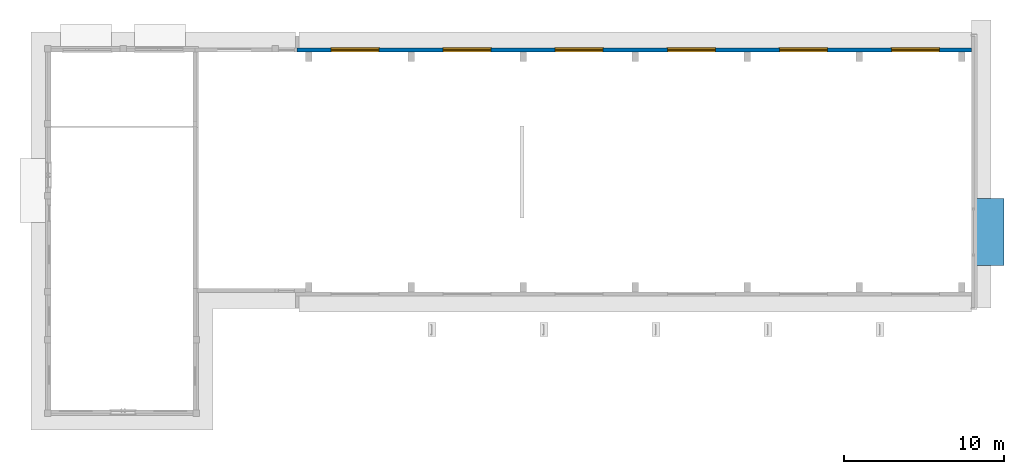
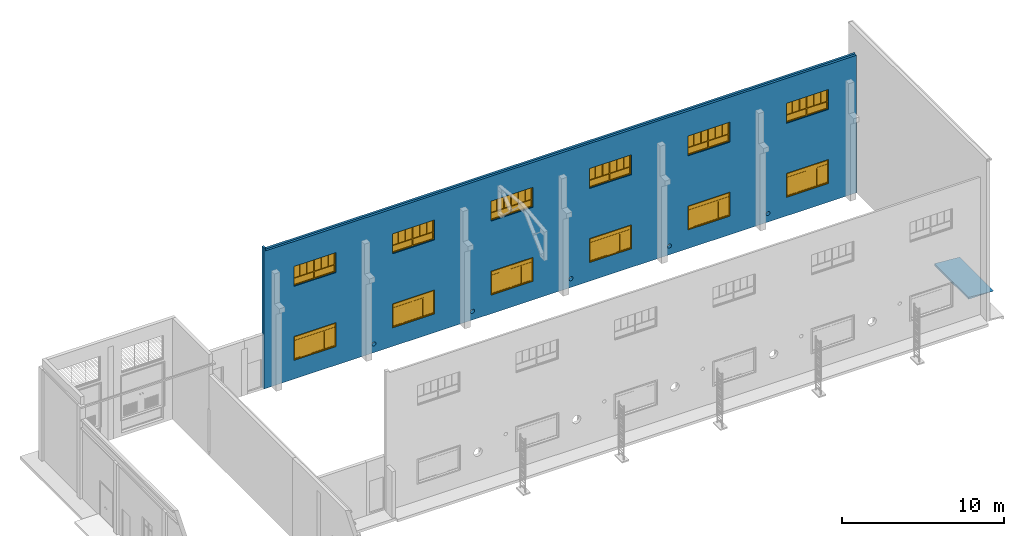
"""IFC2X3 building model written with IfcOpenShell, lengths in millimetres."""

from ifc_helpers import new_model, entity, si_unit, converted_unit, derived_unit, direction, frame, frame_2d, origin, origin_2d_with_axis, place, context, subcontext, project, spatial, polyline, rectangle, circle, outline, extrude, clip, bounded_halfspace, source, transform, mapped, material, material_list, layer, layer_set, layer_usage, type_object, type_shapes, element, fill, aggregate, save


model = new_model("IFC2X3")

# Units and contexts
model_context = context("Model", 3, precision=0.01, world=origin(), true_north=direction((6.12303176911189e-17, 1.0)))
body_context = subcontext(model_context, "Body", "Model", "MODEL_VIEW")
ifc_project = project(units=[si_unit("LENGTHUNIT", "METRE", prefix="MILLI"), si_unit("AREAUNIT", "SQUARE_METRE"), si_unit("VOLUMEUNIT", "CUBIC_METRE"), converted_unit("PLANEANGLEUNIT", "DEGREE", entity("IfcRatioMeasure", 0.0174532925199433), si_unit("PLANEANGLEUNIT", "RADIAN"), dimensions=[0, 0, 0, 0, 0, 0, 0]), si_unit("MASSUNIT", "GRAM", prefix="KILO"), derived_unit("MASSDENSITYUNIT", [(si_unit("MASSUNIT", "GRAM", prefix="KILO"), 1), (si_unit("LENGTHUNIT", "METRE"), -3)]), si_unit("TIMEUNIT", "SECOND"), si_unit("FREQUENCYUNIT", "HERTZ"), si_unit("THERMODYNAMICTEMPERATUREUNIT", "DEGREE_CELSIUS"), derived_unit("THERMALTRANSMITTANCEUNIT", [(si_unit("MASSUNIT", "GRAM", prefix="KILO"), 1), (si_unit("THERMODYNAMICTEMPERATUREUNIT", "KELVIN"), -1), (si_unit("TIMEUNIT", "SECOND"), -3)]), derived_unit("VOLUMETRICFLOWRATEUNIT", [(si_unit("LENGTHUNIT", "METRE"), 3), (si_unit("TIMEUNIT", "SECOND"), -1)]), si_unit("ELECTRICCURRENTUNIT", "AMPERE"), si_unit("ELECTRICVOLTAGEUNIT", "VOLT"), si_unit("POWERUNIT", "WATT"), si_unit("FORCEUNIT", "NEWTON", prefix="KILO"), si_unit("ILLUMINANCEUNIT", "LUX"), si_unit("LUMINOUSFLUXUNIT", "LUMEN"), si_unit("LUMINOUSINTENSITYUNIT", "CANDELA"), derived_unit("USERDEFINED", [(si_unit("MASSUNIT", "GRAM", prefix="KILO"), -1), (si_unit("LENGTHUNIT", "METRE"), -2), (si_unit("TIMEUNIT", "SECOND"), 3), (si_unit("LUMINOUSFLUXUNIT", "LUMEN"), 1)]), derived_unit("LINEARVELOCITYUNIT", [(si_unit("LENGTHUNIT", "METRE"), 1), (si_unit("TIMEUNIT", "SECOND"), -1)]), si_unit("PRESSUREUNIT", "PASCAL"), derived_unit("USERDEFINED", [(si_unit("LENGTHUNIT", "METRE"), -2), (si_unit("MASSUNIT", "GRAM", prefix="KILO"), 1), (si_unit("TIMEUNIT", "SECOND"), -2)])], contexts=[model_context])

# Site, building, storey
site_placement = place(None, origin())
site = spatial("IfcSite", under=ifc_project, at=site_placement, Name="表面", CompositionType="ELEMENT")
building_placement = place(site_placement, origin())
building = spatial("IfcBuilding", under=site, at=building_placement, CompositionType="ELEMENT")
storey_1_placement = place(building_placement, frame((0.0, 0.0, -200.0)))
storey_1 = spatial("IfcBuildingStorey", under=building, at=storey_1_placement, Name="室外地坪", CompositionType="ELEMENT", Elevation=-200.0)

# Wall, openings
ifc_material_1 = material(Name="砖石建筑 - 砖")
ifc_layer = layer(ifc_material_1, 240.0)
ifc_layer_set = layer_set([ifc_layer], Name="基本墙:外砖墙240")
ifc_layer_usage = layer_usage(ifc_layer_set, "AXIS2", "NEGATIVE", 120.0)
wall_type = type_object("IfcWallType", Name="基本墙:外砖墙240", PredefinedType="STANDARD", material=ifc_layer_set)
wall_placement = place(storey_1_placement, frame((-32148.798781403, 15729.6974073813, 0.0)))
wall = element("IfcWallStandardCase", 1, at=wall_placement, inside=storey_1, type_object=wall_type, material=ifc_layer_usage, Name="基本墙:外砖墙240", ObjectType="基本墙:外砖墙240", context=body_context, shape_type="Clipping", body=[
    clip(clip(extrude(rectangle(XDim=42120.0, YDim=240.000000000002, at=frame_2d((21060.0, -2.98427949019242e-13), x_axis=(-1.0, 0.0))), origin(), (0.0, 0.0, 1.0), 10590.0), bounded_halfspace(frame((120.0, -120.0, 10336.4339580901), z_axis=(0.0, 0.189952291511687, 0.981793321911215), x_axis=(-1.0, 0.0, 0.0)), False, frame((120.0, -120.0, 10336.4339580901)), polyline([(0.0, 0.0), (42000.0, 0.0), (42000.0, 216.255963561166), (0.0, 216.25596356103), (0.0, 0.0)]))), bounded_halfspace(frame((42120.0, 96.2559635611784, 10294.5938733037), z_axis=(0.0, -0.981793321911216, 0.189952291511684), x_axis=(-1.0, 0.0, 0.0)), False, frame((42120.0, 96.2559635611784, 10294.5938733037)), polyline([(0.0, 0.0), (0.0, 23.7440364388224), (-42000.0, 23.7440364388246), (-42000.0, 0.0), (0.0, 0.0)]))),
])
opening_1_placement = place(wall_placement, origin())
element("IfcOpeningElement", 2, at=opening_1_placement, cuts=wall, Name="基本墙:外砖墙240", ObjectType="Opening", context=body_context, shape_type="SweptSolid", body=[
    extrude(circle(Radius=150.0, at=frame_2d((0.0, -6.76791955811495e-13), x_axis=(1.0, 0.0))), frame((35820.0, -1644.0, 650.0), z_axis=(0.0, 1.0, 0.0), x_axis=(1.0, 0.0, 0.0)), (0.0, 0.0, 1.0), 3048.0),
])
opening_2_placement = place(wall_placement, origin())
element("IfcOpeningElement", 3, at=opening_2_placement, cuts=wall, Name="基本墙:外砖墙240", ObjectType="Opening", context=body_context, shape_type="SweptSolid", body=[
    extrude(circle(Radius=150.0, at=frame_2d((0.0, -6.76791955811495e-13), x_axis=(1.0, 0.0))), frame((28820.0, -1644.0, 650.0), z_axis=(0.0, 1.0, 0.0), x_axis=(1.0, 0.0, 0.0)), (0.0, 0.0, 1.0), 3048.0),
])
opening_3_placement = place(wall_placement, origin())
element("IfcOpeningElement", 4, at=opening_3_placement, cuts=wall, Name="基本墙:外砖墙240", ObjectType="Opening", context=body_context, shape_type="SweptSolid", body=[
    extrude(circle(Radius=150.0, at=frame_2d((0.0, -6.76791955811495e-13), x_axis=(1.0, 0.0))), frame((21820.0, -1644.0, 650.0), z_axis=(0.0, 1.0, 0.0), x_axis=(1.0, 0.0, 0.0)), (0.0, 0.0, 1.0), 3048.0),
])
opening_4_placement = place(wall_placement, origin())
element("IfcOpeningElement", 5, at=opening_4_placement, cuts=wall, Name="基本墙:外砖墙240", ObjectType="Opening", context=body_context, shape_type="SweptSolid", body=[
    extrude(circle(Radius=150.0, at=frame_2d((0.0, -6.76791955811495e-13), x_axis=(1.0, 0.0))), frame((14820.0, -1644.0, 650.0), z_axis=(0.0, 1.0, 0.0), x_axis=(1.0, 0.0, 0.0)), (0.0, 0.0, 1.0), 3048.0),
])
opening_5_placement = place(wall_placement, origin())
element("IfcOpeningElement", 6, at=opening_5_placement, cuts=wall, Name="基本墙:外砖墙240", ObjectType="Opening", context=body_context, shape_type="SweptSolid", body=[
    extrude(circle(Radius=150.0, at=frame_2d((0.0, -6.76791955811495e-13), x_axis=(1.0, 0.0))), frame((7820.0, -1644.0, 650.0), z_axis=(0.0, 1.0, 0.0), x_axis=(1.0, 0.0, 0.0)), (0.0, 0.0, 1.0), 3048.0),
])
opening_6_placement = place(wall_placement, frame((2120.0, -120.0, 1400.0)))
opening_6 = element("IfcOpeningElement", 7, at=opening_6_placement, cuts=wall, Name="推拉窗(c-1):C-1:1", ObjectType="Opening", context=body_context, shape_type="SweptSolid", body=[
    extrude(rectangle(XDim=1800.00000000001, YDim=3000.0, at=frame_2d((900.000000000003, 1500.0), x_axis=(1.0, 0.0))), frame((0.0, 0.0, 0.0), z_axis=(0.0, 1.0, 0.0), x_axis=(0.0, 0.0, 1.0)), (0.0, 0.0, 1.0), 240.0),
])
opening_7_placement = place(wall_placement, frame((9120.0, -120.0, 1400.0)))
opening_7 = element("IfcOpeningElement", 8, at=opening_7_placement, cuts=wall, Name="推拉窗(c-1):C-1:1", ObjectType="Opening", context=body_context, shape_type="SweptSolid", body=[
    extrude(rectangle(XDim=1800.00000000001, YDim=3000.0, at=frame_2d((900.000000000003, 1500.0), x_axis=(1.0, 0.0))), frame((0.0, 0.0, 0.0), z_axis=(0.0, 1.0, 0.0), x_axis=(0.0, 0.0, 1.0)), (0.0, 0.0, 1.0), 240.0),
])
opening_8_placement = place(wall_placement, frame((16120.0, -120.0, 1400.0)))
opening_8 = element("IfcOpeningElement", 9, at=opening_8_placement, cuts=wall, Name="推拉窗(c-1):C-1:1", ObjectType="Opening", context=body_context, shape_type="SweptSolid", body=[
    extrude(rectangle(XDim=1800.00000000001, YDim=3000.0, at=frame_2d((900.000000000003, 1500.0), x_axis=(1.0, 0.0))), frame((0.0, 0.0, 0.0), z_axis=(0.0, 1.0, 0.0), x_axis=(0.0, 0.0, 1.0)), (0.0, 0.0, 1.0), 240.0),
])
opening_9_placement = place(wall_placement, frame((23120.0, -120.0, 1400.0)))
opening_9 = element("IfcOpeningElement", 10, at=opening_9_placement, cuts=wall, Name="推拉窗(c-1):C-1:1", ObjectType="Opening", context=body_context, shape_type="SweptSolid", body=[
    extrude(rectangle(XDim=1800.00000000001, YDim=3000.0, at=frame_2d((900.000000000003, 1500.0), x_axis=(1.0, 0.0))), frame((0.0, 0.0, 0.0), z_axis=(0.0, 1.0, 0.0), x_axis=(0.0, 0.0, 1.0)), (0.0, 0.0, 1.0), 240.0),
])
opening_10_placement = place(wall_placement, frame((30120.0, -120.0, 1400.0)))
opening_10 = element("IfcOpeningElement", 11, at=opening_10_placement, cuts=wall, Name="推拉窗(c-1):C-1:1", ObjectType="Opening", context=body_context, shape_type="SweptSolid", body=[
    extrude(rectangle(XDim=1800.00000000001, YDim=3000.0, at=frame_2d((900.000000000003, 1500.0), x_axis=(1.0, 0.0))), frame((0.0, 0.0, 0.0), z_axis=(0.0, 1.0, 0.0), x_axis=(0.0, 0.0, 1.0)), (0.0, 0.0, 1.0), 240.0),
])
opening_11_placement = place(wall_placement, frame((37120.0, -120.0, 1400.0)))
opening_11 = element("IfcOpeningElement", 12, at=opening_11_placement, cuts=wall, Name="推拉窗(c-1):C-1:1", ObjectType="Opening", context=body_context, shape_type="SweptSolid", body=[
    extrude(rectangle(XDim=1800.00000000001, YDim=3000.0, at=frame_2d((900.000000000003, 1500.0), x_axis=(1.0, 0.0))), frame((0.0, 0.0, 0.0), z_axis=(0.0, 1.0, 0.0), x_axis=(0.0, 0.0, 1.0)), (0.0, 0.0, 1.0), 240.0),
])
opening_12_placement = place(wall_placement, frame((37120.0, -120.0, 6960.0)))
opening_12 = element("IfcOpeningElement", 13, at=opening_12_placement, cuts=wall, Name="推拉窗(c-7):推拉窗(c-7):1", ObjectType="Opening", context=body_context, shape_type="SweptSolid", body=[
    extrude(rectangle(XDim=1500.0, YDim=3000.0, at=frame_2d((750.0, 1500.0), x_axis=(1.0, 0.0))), frame((0.0, 0.0, 0.0), z_axis=(0.0, 1.0, 0.0), x_axis=(0.0, 0.0, 1.0)), (0.0, 0.0, 1.0), 240.0),
])
opening_13_placement = place(wall_placement, frame((30120.0, -120.0, 6960.0)))
opening_13 = element("IfcOpeningElement", 14, at=opening_13_placement, cuts=wall, Name="推拉窗(c-7):推拉窗(c-7):1", ObjectType="Opening", context=body_context, shape_type="SweptSolid", body=[
    extrude(rectangle(XDim=1500.0, YDim=3000.0, at=frame_2d((750.0, 1500.0), x_axis=(1.0, 0.0))), frame((0.0, 0.0, 0.0), z_axis=(0.0, 1.0, 0.0), x_axis=(0.0, 0.0, 1.0)), (0.0, 0.0, 1.0), 240.0),
])
opening_14_placement = place(wall_placement, frame((23120.0, -120.0, 6960.0)))
opening_14 = element("IfcOpeningElement", 15, at=opening_14_placement, cuts=wall, Name="推拉窗(c-7):推拉窗(c-7):1", ObjectType="Opening", context=body_context, shape_type="SweptSolid", body=[
    extrude(rectangle(XDim=1500.0, YDim=3000.0, at=frame_2d((750.0, 1500.0), x_axis=(1.0, 0.0))), frame((0.0, 0.0, 0.0), z_axis=(0.0, 1.0, 0.0), x_axis=(0.0, 0.0, 1.0)), (0.0, 0.0, 1.0), 240.0),
])
opening_15_placement = place(wall_placement, frame((16120.0, -120.0, 6960.0)))
opening_15 = element("IfcOpeningElement", 16, at=opening_15_placement, cuts=wall, Name="推拉窗(c-7):推拉窗(c-7):1", ObjectType="Opening", context=body_context, shape_type="SweptSolid", body=[
    extrude(rectangle(XDim=1500.0, YDim=3000.0, at=frame_2d((750.0, 1500.0), x_axis=(1.0, 0.0))), frame((0.0, 0.0, 0.0), z_axis=(0.0, 1.0, 0.0), x_axis=(0.0, 0.0, 1.0)), (0.0, 0.0, 1.0), 240.0),
])
opening_16_placement = place(wall_placement, frame((9120.0, -120.0, 6960.0)))
opening_16 = element("IfcOpeningElement", 17, at=opening_16_placement, cuts=wall, Name="推拉窗(c-7):推拉窗(c-7):1", ObjectType="Opening", context=body_context, shape_type="SweptSolid", body=[
    extrude(rectangle(XDim=1500.0, YDim=3000.0, at=frame_2d((750.0, 1500.0), x_axis=(1.0, 0.0))), frame((0.0, 0.0, 0.0), z_axis=(0.0, 1.0, 0.0), x_axis=(0.0, 0.0, 1.0)), (0.0, 0.0, 1.0), 240.0),
])
opening_17_placement = place(wall_placement, frame((2120.0, -120.0, 6960.0)))
opening_17 = element("IfcOpeningElement", 18, at=opening_17_placement, cuts=wall, Name="推拉窗(c-7):推拉窗(c-7):1", ObjectType="Opening", context=body_context, shape_type="SweptSolid", body=[
    extrude(rectangle(XDim=1500.0, YDim=3000.0, at=frame_2d((750.0, 1500.0), x_axis=(1.0, 0.0))), frame((0.0, 0.0, 0.0), z_axis=(0.0, 1.0, 0.0), x_axis=(0.0, 0.0, 1.0)), (0.0, 0.0, 1.0), 240.0),
])

# Storey
storey_2_placement = place(building_placement, origin())
storey_2 = spatial("IfcBuildingStorey", under=building, at=storey_2_placement, Name="±0.000", CompositionType="ELEMENT", Elevation=0.0)

# Window
ifc_material_2 = material(Name="窗框")
ifc_material_3 = material(Name="玻璃")
ifc_material_4 = material(Name="窗套")
ifc_material_list_1 = material_list([ifc_material_2, ifc_material_3, ifc_material_4])
ifc_material_list_2 = material_list([ifc_material_2, ifc_material_3, ifc_material_4])
window_style_1 = type_object("IfcWindowStyle", Name="C-1", ConstructionType="NOTDEFINED", OperationType="NOTDEFINED", ParameterTakesPrecedence=False, Sizeable=False, material=ifc_material_list_2)
shared_shape_1 = source(origin(), body_context, "Body", "SweptSolid", [
    extrude(rectangle(XDim=38.0, YDim=40.0, at=frame_2d((-3.5527136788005e-15, 6.75015598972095e-14), x_axis=(1.0, 0.0))), frame((2220.0, 75.0, 80.0), z_axis=(0.0, 0.0, 1.0), x_axis=(0.0, 1.0, 0.0)), (0.0, 0.0, 1.0), 1280.0),
    extrude(rectangle(XDim=38.0, YDim=40.0, at=frame_2d((-3.5527136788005e-15, 0.0), x_axis=(1.0, 0.0))), frame((1500.0, 75.0, 80.0), z_axis=(0.0, 0.0, 1.0), x_axis=(0.0, 1.0, 0.0)), (0.0, 0.0, 1.0), 1280.0),
    extrude(rectangle(XDim=38.0, YDim=40.0, at=frame_2d((-3.5527136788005e-15, 6.75015598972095e-14), x_axis=(1.0, 0.0))), frame((780.0, 75.0, 80.0), z_axis=(0.0, 0.0, 1.0), x_axis=(0.0, 1.0, 0.0)), (0.0, 0.0, 1.0), 1280.0),
    extrude(rectangle(XDim=38.0, YDim=40.0000000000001, at=frame_2d((-3.5527136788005e-15, 0.0), x_axis=(1.0, 0.0))), frame((2940.0, 75.0, 80.0), z_axis=(0.0, 0.0, 1.0), x_axis=(0.0, 1.0, 0.0)), (0.0, 0.0, 1.0), 1280.0),
    extrude(rectangle(XDim=38.0, YDim=40.0000000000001, at=frame_2d((-3.5527136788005e-15, 0.0), x_axis=(1.0, 0.0))), frame((60.0, 75.0, 80.0), z_axis=(0.0, 0.0, 1.0), x_axis=(0.0, 1.0, 0.0)), (0.0, 0.0, 1.0), 1280.0),
    extrude(rectangle(XDim=13.3333333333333, YDim=2840.0, at=frame_2d((4.44089209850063e-15, 0.0), x_axis=(1.0, 0.0))), frame((1500.0, 75.0, 80.0), z_axis=(0.0, 0.0, 1.0), x_axis=(0.0, 1.0, 0.0)), (0.0, 0.0, 1.0), 1280.0),
    extrude(outline(polyline([(-680.0, -1460.0), (680.0, -1460.0), (680.0, 1460.0), (-680.0, 1460.0), (-680.0, -1460.0)]), holes=[polyline([(-640.0, -1420.0), (-640.0, 1420.0), (640.0, 1420.0), (640.0, -1420.0), (-640.0, -1420.0)])]), frame((1500.0, 55.0, 720.0), z_axis=(0.0, 1.0, 0.0), x_axis=(0.0, 0.0, -1.0)), (0.0, 0.0, 1.0), 40.0),
    extrude(rectangle(XDim=38.0, YDim=40.0, at=frame_2d((-3.5527136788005e-15, 0.0), x_axis=(1.0, 0.0))), frame((1500.0, 75.0, 1440.0), z_axis=(0.0, 0.0, 1.0), x_axis=(0.0, 1.0, 0.0)), (0.0, 0.0, 1.0), 280.0),
    extrude(rectangle(XDim=38.0, YDim=40.0000000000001, at=frame_2d((-3.5527136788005e-15, 0.0), x_axis=(1.0, 0.0))), frame((2940.0, 75.0, 1440.0), z_axis=(0.0, 0.0, 1.0), x_axis=(0.0, 1.0, 0.0)), (0.0, 0.0, 1.0), 280.0),
    extrude(rectangle(XDim=38.0, YDim=40.0000000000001, at=frame_2d((-3.5527136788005e-15, 0.0), x_axis=(1.0, 0.0))), frame((60.0, 75.0, 1440.0), z_axis=(0.0, 0.0, 1.0), x_axis=(0.0, 1.0, 0.0)), (0.0, 0.0, 1.0), 280.0),
    extrude(rectangle(XDim=13.3333333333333, YDim=2840.0, at=frame_2d((4.44089209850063e-15, 0.0), x_axis=(1.0, 0.0))), frame((1500.0, 75.0, 1440.0), z_axis=(0.0, 0.0, 1.0), x_axis=(0.0, 1.0, 0.0)), (0.0, 0.0, 1.0), 280.000000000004),
    extrude(outline(polyline([(-180.0, -1460.0), (180.0, -1460.0), (180.0, 1460.0), (-180.0, 1460.0), (-180.0, -1460.0)]), holes=[polyline([(-140.0, -1420.0), (-140.0, 1420.0), (140.0, 1420.0), (140.0, -1420.0), (-140.0, -1420.0)])]), frame((1500.0, 55.0, 1580.0), z_axis=(0.0, 1.0, 0.0), x_axis=(0.0, 0.0, -1.0)), (0.0, 0.0, 1.0), 40.0),
    extrude(outline(polyline([(-900.0, -1500.0), (900.0, -1500.0), (900.0, 1500.0), (-900.0, 1500.0), (-900.0, -1500.0)]), holes=[polyline([(-860.0, -1460.0), (-860.0, 1460.0), (860.0, 1460.0), (860.0, -1460.0), (-860.0, -1460.0)])]), frame((1500.0, 0.0, 900.0), z_axis=(0.0, 1.0, 0.0), x_axis=(0.0, 0.0, -1.0)), (0.0, 0.0, 1.0), 240.000000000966),
    extrude(outline(polyline([(-1540.0, -940.0), (1540.0, -940.0), (1540.0, 940.0), (-1540.0, 940.0), (-1540.0, -940.0)]), holes=[polyline([(-1460.0, -860.0), (-1460.0, 860.0), (1460.0, 860.0), (1460.0, -860.0), (-1460.0, -860.0)])]), frame((1500.0, 240.0, 900.0), z_axis=(0.0, 1.0, 0.0), x_axis=(1.0, 0.0, 0.0)), (0.0, 0.0, 1.0), 20.0),
])
type_shapes(window_style_1, [shared_shape_1])
window_1_placement = place(opening_6_placement, origin())
window_1 = element("IfcWindow", 19, at=window_1_placement, inside=storey_2, type_object=window_style_1, material=ifc_material_list_1, Name="推拉窗(c-1):C-1", ObjectType="C-1", OverallHeight=1800.00000000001, OverallWidth=3000.0, context=body_context, shape_type="MappedRepresentation", body=[
    mapped(shared_shape_1, transform((0.0, 0.0, 0.0), scale=1.0)),
])

fill(opening_6, window_1)

ifc_material_list_3 = material_list([ifc_material_2, ifc_material_3, ifc_material_4])
window_2_placement = place(opening_8_placement, origin())
window_2 = element("IfcWindow", 20, at=window_2_placement, inside=storey_2, type_object=window_style_1, material=ifc_material_list_3, Name="推拉窗(c-1):C-1", ObjectType="C-1", OverallHeight=1800.00000000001, OverallWidth=3000.0, context=body_context, shape_type="MappedRepresentation", body=[
    mapped(shared_shape_1, transform((0.0, 0.0, 0.0), scale=1.0)),
])

fill(opening_8, window_2)

ifc_material_list_4 = material_list([ifc_material_2, ifc_material_3, ifc_material_4])
window_3_placement = place(opening_10_placement, origin())
window_3 = element("IfcWindow", 21, at=window_3_placement, inside=storey_2, type_object=window_style_1, material=ifc_material_list_4, Name="推拉窗(c-1):C-1", ObjectType="C-1", OverallHeight=1800.00000000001, OverallWidth=3000.0, context=body_context, shape_type="MappedRepresentation", body=[
    mapped(shared_shape_1, transform((0.0, 0.0, 0.0), scale=1.0)),
])

fill(opening_10, window_3)

ifc_material_list_5 = material_list([ifc_material_2, ifc_material_3, ifc_material_4])
ifc_material_list_6 = material_list([ifc_material_2, ifc_material_3, ifc_material_4])
window_style_2 = type_object("IfcWindowStyle", Name="C-1", ConstructionType="NOTDEFINED", OperationType="NOTDEFINED", ParameterTakesPrecedence=False, Sizeable=False, material=ifc_material_list_6)
shared_shape_2 = source(origin(), body_context, "Body", "SweptSolid", [
    extrude(rectangle(XDim=40.0, YDim=38.0, at=frame_2d((6.75015598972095e-14, -3.5527136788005e-15), x_axis=(1.0, 0.0))), frame((780.0, 75.0, 80.0)), (0.0, 0.0, 1.0), 1280.0),
    extrude(rectangle(XDim=40.0, YDim=38.0, at=frame_2d((0.0, -3.5527136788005e-15), x_axis=(1.0, 0.0))), frame((1500.0, 75.0, 80.0)), (0.0, 0.0, 1.0), 1280.0),
    extrude(rectangle(XDim=40.0, YDim=38.0, at=frame_2d((6.75015598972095e-14, -3.5527136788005e-15), x_axis=(1.0, 0.0))), frame((2220.0, 75.0, 80.0)), (0.0, 0.0, 1.0), 1280.0),
    extrude(rectangle(XDim=40.0000000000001, YDim=38.0, at=frame_2d((0.0, -3.5527136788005e-15), x_axis=(1.0, 0.0))), frame((60.0, 75.0, 80.0)), (0.0, 0.0, 1.0), 1280.0),
    extrude(rectangle(XDim=40.0000000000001, YDim=38.0, at=frame_2d((0.0, -3.5527136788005e-15), x_axis=(1.0, 0.0))), frame((2940.0, 75.0, 80.0)), (0.0, 0.0, 1.0), 1280.0),
    extrude(rectangle(XDim=2840.0, YDim=13.3333333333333, at=frame_2d((0.0, 4.44089209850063e-15), x_axis=(1.0, 0.0))), frame((1500.0, 75.0, 80.0)), (0.0, 0.0, 1.0), 1280.0),
    extrude(outline(polyline([(-680.0, -1460.0), (680.0, -1460.0), (680.0, 1460.0), (-680.0, 1460.0), (-680.0, -1460.0)]), holes=[polyline([(-640.0, -1420.0), (-640.0, 1420.0), (640.0, 1420.0), (640.0, -1420.0), (-640.0, -1420.0)])]), frame((1500.0, 95.0, 720.0), z_axis=(0.0, -1.0, 0.0), x_axis=(0.0, 0.0, -1.0)), (0.0, 0.0, 1.0), 40.0),
    extrude(rectangle(XDim=40.0, YDim=38.0, at=frame_2d((0.0, -3.5527136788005e-15), x_axis=(1.0, 0.0))), frame((1500.0, 75.0, 1440.0)), (0.0, 0.0, 1.0), 280.0),
    extrude(rectangle(XDim=40.0000000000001, YDim=38.0, at=frame_2d((0.0, -3.5527136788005e-15), x_axis=(1.0, 0.0))), frame((60.0, 75.0, 1440.0)), (0.0, 0.0, 1.0), 280.0),
    extrude(rectangle(XDim=40.0000000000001, YDim=38.0, at=frame_2d((0.0, -3.5527136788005e-15), x_axis=(1.0, 0.0))), frame((2940.0, 75.0, 1440.0)), (0.0, 0.0, 1.0), 280.0),
    extrude(rectangle(XDim=2840.0, YDim=13.3333333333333, at=frame_2d((0.0, 4.44089209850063e-15), x_axis=(1.0, 0.0))), frame((1500.0, 75.0, 1440.0)), (0.0, 0.0, 1.0), 280.000000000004),
    extrude(outline(polyline([(-180.0, -1460.0), (180.0, -1460.0), (180.0, 1460.0), (-180.0, 1460.0), (-180.0, -1460.0)]), holes=[polyline([(-140.0, -1420.0), (-140.0, 1420.0), (140.0, 1420.0), (140.0, -1420.0), (-140.0, -1420.0)])]), frame((1500.0, 95.0, 1580.0), z_axis=(0.0, -1.0, 0.0), x_axis=(0.0, 0.0, -1.0)), (0.0, 0.0, 1.0), 40.0),
    extrude(outline(polyline([(-900.0, -1500.0), (900.0, -1500.0), (900.0, 1500.0), (-900.0, 1500.0), (-900.0, -1500.0)]), holes=[polyline([(-860.0, -1460.0), (-860.0, 1460.0), (860.0, 1460.0), (860.0, -1460.0), (-860.0, -1460.0)])]), frame((1500.0, 240.0, 900.0), z_axis=(0.0, -1.0, 0.0), x_axis=(0.0, 0.0, -1.0)), (0.0, 0.0, 1.0), 240.000000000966),
    extrude(outline(polyline([(-1540.0, -940.0), (1540.0, -940.0), (1540.0, 940.0), (-1540.0, 940.0), (-1540.0, -940.0)]), holes=[polyline([(-1460.0, -860.0), (-1460.0, 860.0), (1460.0, 860.0), (1460.0, -860.0), (-1460.0, -860.0)])]), frame((1500.0, 260.0, 900.0), z_axis=(0.0, -1.0, 0.0), x_axis=(-1.0, 0.0, 0.0)), (0.0, 0.0, 1.0), 20.0),
])
type_shapes(window_style_2, [shared_shape_2])
window_4_placement = place(opening_7_placement, origin())
window_4 = element("IfcWindow", 22, at=window_4_placement, inside=storey_2, type_object=window_style_2, material=ifc_material_list_5, Name="推拉窗(c-1):C-1", ObjectType="C-1", OverallHeight=1800.00000000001, OverallWidth=3000.0, context=body_context, shape_type="MappedRepresentation", body=[
    mapped(shared_shape_2, transform((0.0, 0.0, 0.0), scale=1.0)),
])

fill(opening_7, window_4)

ifc_material_list_7 = material_list([ifc_material_2, ifc_material_3, ifc_material_4])
window_5_placement = place(opening_9_placement, origin())
window_5 = element("IfcWindow", 23, at=window_5_placement, inside=storey_2, type_object=window_style_2, material=ifc_material_list_7, Name="推拉窗(c-1):C-1", ObjectType="C-1", OverallHeight=1800.00000000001, OverallWidth=3000.0, context=body_context, shape_type="MappedRepresentation", body=[
    mapped(shared_shape_2, transform((0.0, 0.0, 0.0), scale=1.0)),
])

fill(opening_9, window_5)

ifc_material_list_8 = material_list([ifc_material_2, ifc_material_3, ifc_material_4])
window_6_placement = place(opening_11_placement, origin())
window_6 = element("IfcWindow", 24, at=window_6_placement, inside=storey_2, type_object=window_style_2, material=ifc_material_list_8, Name="推拉窗(c-1):C-1", ObjectType="C-1", OverallHeight=1800.00000000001, OverallWidth=3000.0, context=body_context, shape_type="MappedRepresentation", body=[
    mapped(shared_shape_2, transform((0.0, 0.0, 0.0), scale=1.0)),
])

fill(opening_11, window_6)

ifc_material_5 = material(Name="窗框材质")
ifc_material_list_9 = material_list([ifc_material_5, ifc_material_3])
ifc_material_list_10 = material_list([ifc_material_5, ifc_material_3])
window_style_3 = type_object("IfcWindowStyle", Name="推拉窗(c-7)", ConstructionType="NOTDEFINED", OperationType="NOTDEFINED", ParameterTakesPrecedence=False, Sizeable=False, material=ifc_material_list_10)
shared_shape_3 = source(origin(), body_context, "Body", "SweptSolid", [
    extrude(outline(polyline([(-85.0, 345.0), (790.0, 345.0), (790.0, 375.0), (-590.0, 375.0), (-590.0, 345.0), (-115.0, 345.0), (-115.0, -1065.0), (-85.0, -1065.0), (-85.0, 345.0)])), frame((1125.0, 90.0, 650.0), z_axis=(0.0, 1.0, 0.0), x_axis=(0.0, 0.0, 1.0)), (0.0, 0.0, 1.0), 60.0),
    extrude(rectangle(XDim=6.0, YDim=2880.0, at=origin_2d_with_axis()), frame((1500.0, 120.0, 60.0), z_axis=(0.0, 0.0, 1.0), x_axis=(0.0, 1.0, 0.0)), (0.0, 0.0, 1.0), 1380.0),
    extrude(outline(polyline([(-345.0, 85.0), (1065.0, 85.0), (1065.0, 115.0), (-345.0, 115.0), (-345.0, 590.0), (-375.0, 590.0), (-375.0, -790.0), (-345.0, -790.0), (-345.0, 85.0)])), frame((1875.0, 90.0, 650.0), z_axis=(0.0, 1.0, 0.0), x_axis=(1.0, 0.0, 0.0)), (0.0, 0.0, 1.0), 60.0),
    extrude(outline(polyline([(-1500.0, -750.0), (1500.0, -750.0), (1500.0, 750.0), (-1500.0, 750.0), (-1500.0, -750.0)]), holes=[polyline([(-1440.0, -690.0), (-1440.0, 690.0), (1440.0, 690.0), (1440.0, -690.0), (-1440.0, -690.0)])]), frame((1500.0, 90.0, 750.0), z_axis=(0.0, 1.0, 0.0), x_axis=(1.0, 0.0, 0.0)), (0.0, 0.0, 1.0), 60.0),
    extrude(rectangle(XDim=40.0, YDim=30.0000000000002, at=origin_2d_with_axis()), frame((500.0, 120.0, 550.0), z_axis=(0.0, 0.0, 1.0), x_axis=(0.0, 1.0, 0.0)), (0.0, 0.0, 1.0), 890.000000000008),
    extrude(rectangle(XDim=40.0, YDim=30.0000000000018, at=origin_2d_with_axis()), frame((2500.0, 120.0, 550.0), z_axis=(0.0, 0.0, 1.0), x_axis=(0.0, 1.0, 0.0)), (0.0, 0.0, 1.0), 890.000000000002),
    extrude(rectangle(XDim=40.0, YDim=30.0000000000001, at=frame_2d((0.0, 3.46389583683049e-14), x_axis=(1.0, 0.0))), frame((2000.0, 120.0, 550.0), z_axis=(0.0, 0.0, 1.0), x_axis=(0.0, 1.0, 0.0)), (0.0, 0.0, 1.0), 890.000000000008),
    extrude(rectangle(XDim=40.0, YDim=29.9999999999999, at=origin_2d_with_axis()), frame((1000.0, 120.0, 550.0), z_axis=(0.0, 0.0, 1.0), x_axis=(0.0, 1.0, 0.0)), (0.0, 0.0, 1.0), 890.000000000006),
])
type_shapes(window_style_3, [shared_shape_3])
window_7_placement = place(opening_12_placement, origin())
window_7 = element("IfcWindow", 25, at=window_7_placement, inside=storey_2, type_object=window_style_3, material=ifc_material_list_9, Name="推拉窗(c-7):推拉窗(c-7)", ObjectType="推拉窗(c-7)", OverallHeight=1500.0, OverallWidth=3000.0, context=body_context, shape_type="MappedRepresentation", body=[
    mapped(shared_shape_3, transform((0.0, 0.0, 0.0), scale=1.0)),
])

fill(opening_12, window_7)

# Storey
storey_3_placement = place(building_placement, frame((0.0, 0.0, 3300.0)))
storey_3 = spatial("IfcBuildingStorey", under=building, at=storey_3_placement, Name="3.3000", CompositionType="ELEMENT", Elevation=3300.0)

# Window
ifc_material_list_11 = material_list([ifc_material_5, ifc_material_3])
window_8_placement = place(opening_14_placement, origin())
window_8 = element("IfcWindow", 26, at=window_8_placement, inside=storey_3, type_object=window_style_3, material=ifc_material_list_11, Name="推拉窗(c-7):推拉窗(c-7)", ObjectType="推拉窗(c-7)", OverallHeight=1500.0, OverallWidth=3000.0, context=body_context, shape_type="MappedRepresentation", body=[
    mapped(shared_shape_3, transform((0.0, 0.0, 0.0), scale=1.0)),
])

fill(opening_14, window_8)

ifc_material_list_12 = material_list([ifc_material_5, ifc_material_3])
window_9_placement = place(opening_16_placement, origin())
window_9 = element("IfcWindow", 27, at=window_9_placement, inside=storey_3, type_object=window_style_3, material=ifc_material_list_12, Name="推拉窗(c-7):推拉窗(c-7)", ObjectType="推拉窗(c-7)", OverallHeight=1500.0, OverallWidth=3000.0, context=body_context, shape_type="MappedRepresentation", body=[
    mapped(shared_shape_3, transform((0.0, 0.0, 0.0), scale=1.0)),
])

fill(opening_16, window_9)

ifc_material_list_13 = material_list([ifc_material_5, ifc_material_3])
ifc_material_list_14 = material_list([ifc_material_5, ifc_material_3])
window_style_4 = type_object("IfcWindowStyle", Name="推拉窗(c-7)", ConstructionType="NOTDEFINED", OperationType="NOTDEFINED", ParameterTakesPrecedence=False, Sizeable=False, material=ifc_material_list_14)
shared_shape_4 = source(origin(), body_context, "Body", "SweptSolid", [
    extrude(outline(polyline([(-85.0, 345.0), (790.0, 345.0), (790.0, 375.0), (-590.0, 375.0), (-590.0, 345.0), (-115.0, 345.0), (-115.0, -1065.0), (-85.0, -1065.0), (-85.0, 345.0)])), frame((1875.0, 150.0, 650.0), z_axis=(0.0, -1.0, 0.0), x_axis=(0.0, 0.0, 1.0)), (0.0, 0.0, 1.0), 60.0),
    extrude(rectangle(XDim=2880.0, YDim=6.0, at=origin_2d_with_axis()), frame((1500.0, 120.0, 60.0)), (0.0, 0.0, 1.0), 1380.0),
    extrude(outline(polyline([(-345.0, 85.0), (1065.0, 85.0), (1065.0, 115.0), (-345.0, 115.0), (-345.0, 590.0), (-375.0, 590.0), (-375.0, -790.0), (-345.0, -790.0), (-345.0, 85.0)])), frame((1125.0, 150.0, 650.0), z_axis=(0.0, -1.0, 0.0), x_axis=(-1.0, 0.0, 0.0)), (0.0, 0.0, 1.0), 60.0),
    extrude(outline(polyline([(-1500.0, -750.0), (1500.0, -750.0), (1500.0, 750.0), (-1500.0, 750.0), (-1500.0, -750.0)]), holes=[polyline([(-1440.0, -690.0), (-1440.0, 690.0), (1440.0, 690.0), (1440.0, -690.0), (-1440.0, -690.0)])]), frame((1500.0, 150.0, 750.0), z_axis=(0.0, -1.0, 0.0), x_axis=(-1.0, 0.0, 0.0)), (0.0, 0.0, 1.0), 60.0),
    extrude(rectangle(XDim=30.0000000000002, YDim=40.0, at=origin_2d_with_axis()), frame((2500.0, 120.0, 550.0)), (0.0, 0.0, 1.0), 890.000000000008),
    extrude(rectangle(XDim=30.0000000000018, YDim=40.0, at=origin_2d_with_axis()), frame((500.0, 120.0, 550.0)), (0.0, 0.0, 1.0), 890.000000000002),
    extrude(rectangle(XDim=30.0000000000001, YDim=40.0, at=frame_2d((3.46389583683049e-14, 0.0), x_axis=(1.0, 0.0))), frame((1000.0, 120.0, 550.0)), (0.0, 0.0, 1.0), 890.000000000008),
    extrude(rectangle(XDim=29.9999999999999, YDim=40.0, at=origin_2d_with_axis()), frame((2000.0, 120.0, 550.0)), (0.0, 0.0, 1.0), 890.000000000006),
])
type_shapes(window_style_4, [shared_shape_4])
window_10_placement = place(opening_13_placement, origin())
window_10 = element("IfcWindow", 28, at=window_10_placement, inside=storey_3, type_object=window_style_4, material=ifc_material_list_13, Name="推拉窗(c-7):推拉窗(c-7)", ObjectType="推拉窗(c-7)", OverallHeight=1500.0, OverallWidth=3000.0, context=body_context, shape_type="MappedRepresentation", body=[
    mapped(shared_shape_4, transform((0.0, 0.0, 0.0), scale=1.0)),
])

fill(opening_13, window_10)

ifc_material_list_15 = material_list([ifc_material_5, ifc_material_3])
window_11_placement = place(opening_15_placement, origin())
window_11 = element("IfcWindow", 29, at=window_11_placement, inside=storey_3, type_object=window_style_4, material=ifc_material_list_15, Name="推拉窗(c-7):推拉窗(c-7)", ObjectType="推拉窗(c-7)", OverallHeight=1500.0, OverallWidth=3000.0, context=body_context, shape_type="MappedRepresentation", body=[
    mapped(shared_shape_4, transform((0.0, 0.0, 0.0), scale=1.0)),
])

fill(opening_15, window_11)

ifc_material_list_16 = material_list([ifc_material_5, ifc_material_3])
window_12_placement = place(opening_17_placement, origin())
window_12 = element("IfcWindow", 30, at=window_12_placement, inside=storey_3, type_object=window_style_4, material=ifc_material_list_16, Name="推拉窗(c-7):推拉窗(c-7)", ObjectType="推拉窗(c-7)", OverallHeight=1500.0, OverallWidth=3000.0, context=body_context, shape_type="MappedRepresentation", body=[
    mapped(shared_shape_4, transform((0.0, 0.0, 0.0), scale=1.0)),
])

fill(opening_17, window_12)

# Ramp, ramp flight
ramp_placement = place(storey_1_placement, origin())
ramp = element("IfcRamp", 31, at=ramp_placement, inside=storey_1, Name="坡道:坡道 1", ObjectType="坡道:坡道 1:350", ShapeType="NOTDEFINED")
ifc_material_6 = material(Name="混凝土 - 现场浇筑")
ramp_flight_placement = place(ramp_placement, origin())
ramp_flight = element("IfcRampFlight", 32, at=ramp_flight_placement, material=ifc_material_6, Name="坡道:坡道 1:1", ObjectType="坡道:坡道 1:350", context=body_context, shape_type="SweptSolid", body=[
    extrude(outline(polyline([(-1200.0, -50.0), (600.0, -50.0), (600.0, 100.0), (-1200.0, -50.0)])), frame((10811.201218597, 2259.69740738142, 50.0), z_axis=(0.0, 1.0, 0.0), x_axis=(-1.0, 0.0, 0.0)), (0.0, 0.0, 1.0), 4200.00000000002),
])
aggregate(ramp, [ramp_flight])

save(model, "model.ifc")
